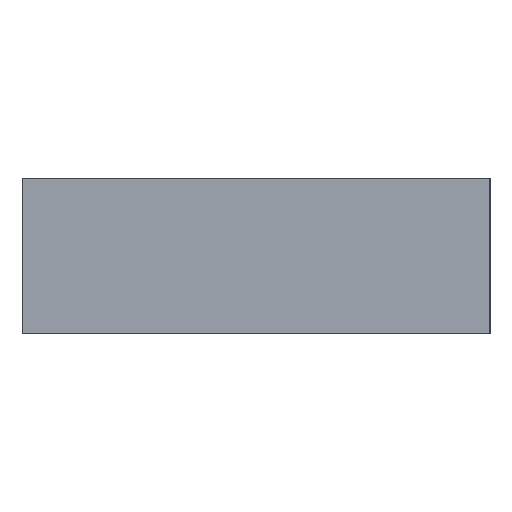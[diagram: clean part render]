
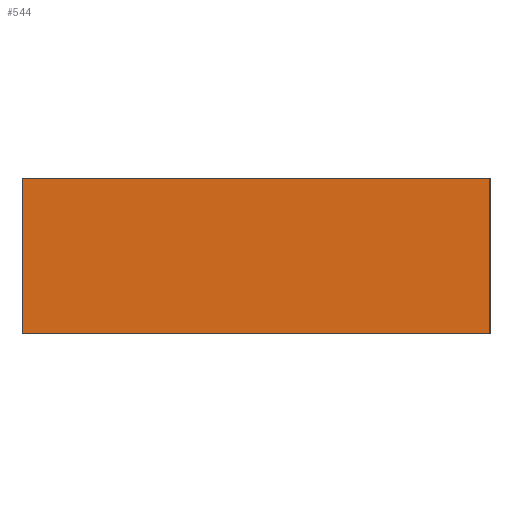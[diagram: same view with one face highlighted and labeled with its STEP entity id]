
A CAD part, left-side view. The second image highlights one B-rep face of the part: STEP entity #544.
In plain terms, the highlighted planar face has unit normal (-1, 0, 0).
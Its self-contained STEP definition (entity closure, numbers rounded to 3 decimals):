
#505=CARTESIAN_POINT('',(-90.0,-22.5,0.0));
#506=DIRECTION('',(-1.0,0.0,0.0));
#507=DIRECTION('',(0.0,0.0,1.0));
#508=AXIS2_PLACEMENT_3D('',#505,#506,#507);
#509=PLANE('',#508);
#510=CARTESIAN_POINT('',(-90.0,-22.5,15.0));
#511=VERTEX_POINT('',#510);
#512=CARTESIAN_POINT('',(-90.0,22.5,15.0));
#513=VERTEX_POINT('',#512);
#514=CARTESIAN_POINT('',(-90.0,-22.5,15.0));
#515=DIRECTION('',(0.0,1.0,0.0));
#516=VECTOR('',#515,45.0);
#517=LINE('',#514,#516);
#518=EDGE_CURVE('',#511,#513,#517,.T.);
#519=ORIENTED_EDGE('',*,*,#518,.T.);
#520=CARTESIAN_POINT('',(-90.0,22.5,0.0));
#521=VERTEX_POINT('',#520);
#522=CARTESIAN_POINT('',(-90.0,22.5,0.0));
#523=DIRECTION('',(0.0,0.0,1.0));
#524=VECTOR('',#523,15.0);
#525=LINE('',#522,#524);
#526=EDGE_CURVE('',#521,#513,#525,.T.);
#527=ORIENTED_EDGE('',*,*,#526,.F.);
#528=CARTESIAN_POINT('',(-90.0,-22.5,0.0));
#529=VERTEX_POINT('',#528);
#530=CARTESIAN_POINT('',(-90.0,22.5,0.0));
#531=DIRECTION('',(0.0,-1.0,0.0));
#532=VECTOR('',#531,45.0);
#533=LINE('',#530,#532);
#534=EDGE_CURVE('',#521,#529,#533,.T.);
#535=ORIENTED_EDGE('',*,*,#534,.T.);
#536=CARTESIAN_POINT('',(-90.0,-22.5,0.0));
#537=DIRECTION('',(0.0,0.0,1.0));
#538=VECTOR('',#537,15.0);
#539=LINE('',#536,#538);
#540=EDGE_CURVE('',#529,#511,#539,.T.);
#541=ORIENTED_EDGE('',*,*,#540,.T.);
#542=EDGE_LOOP('',(#519,#527,#535,#541));
#543=FACE_OUTER_BOUND('',#542,.T.);
#544=ADVANCED_FACE('',(#543),#509,.T.);
